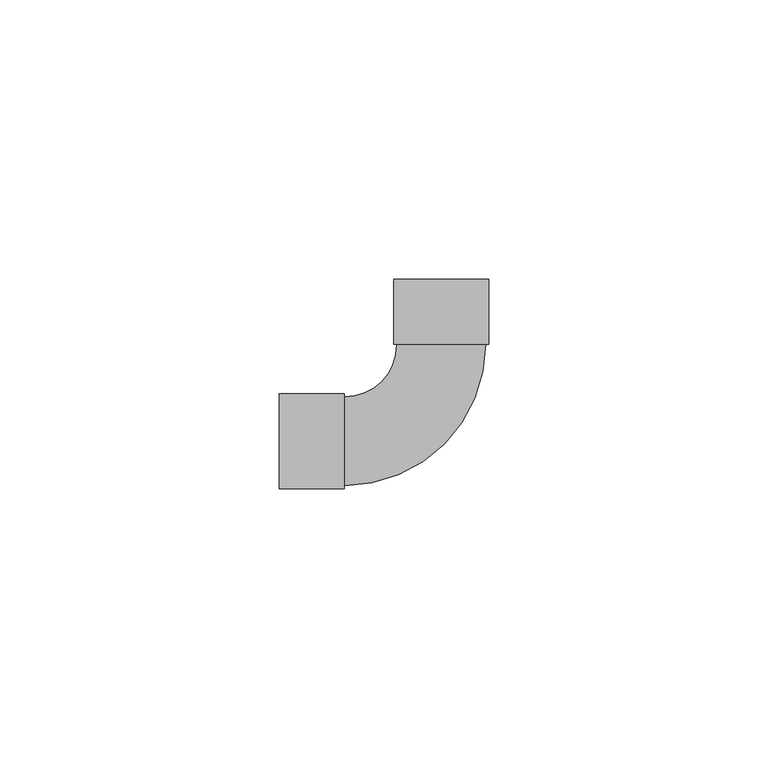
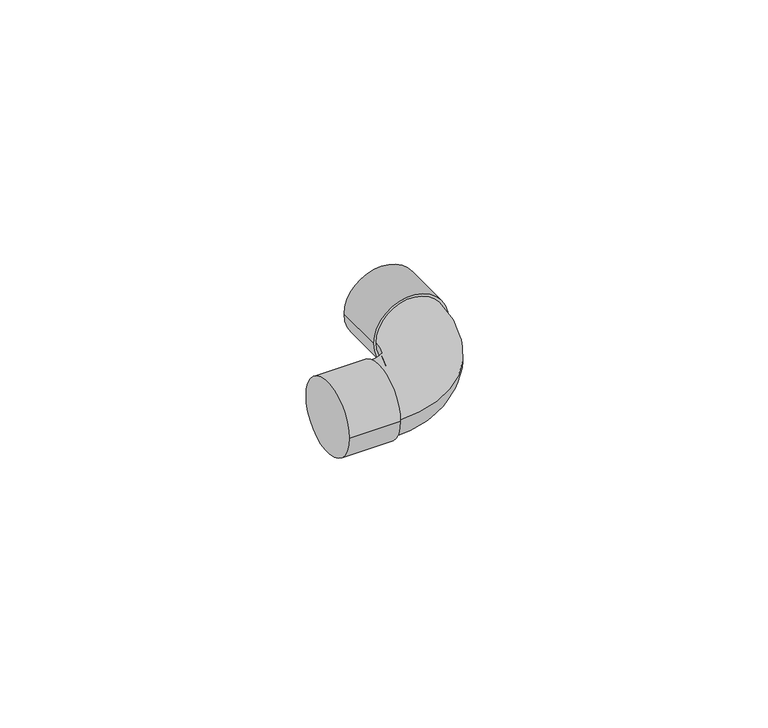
"""IFC4 building model written with IfcOpenShell, lengths in millimetres: pipe fitting geometry, Cotovelo - Soldado - CU : Padrão."""

from ifc_helpers import new_model, si_unit, point, frame, origin, place, context, project, spatial, circle_curve, ellipse_curve, trimmed, source, transform, mapped, element, save
from ifc_brep_helpers import plane_surface, cylinder_surface, revolved_surface, advanced_brep


def pipe_fitting_16c020f5(model_context):
    return source(origin(), model_context, "Body", "AdvancedBrep", [
        advanced_brep(
        [(-7.935, 17.3197, 0.0), (-17.3197, 7.935, 0.0), (-17.3197, -7.935, 0.0), (7.935, 17.3197, 0.0), (-28.9786, -8.4937, 0.0), (-28.9786, 8.4937, 0.0), (-17.3197, -8.4937, 0.0), (-17.3197, 8.4937, 0.0), (-8.4937, 28.9786, 0.0), (8.4937, 28.9786, 0.0), (-8.4937, 17.3197, 0.0), (8.4937, 17.3197, 0.0)],
        [
            (0, 1, circle_curve(frame((-17.3197, 17.3197, 0.0), z_axis=(0.0, 0.0, -1.0), x_axis=(0.0, -1.0, 0.0)), 9.3847)),
            (1, 2, circle_curve(frame((-17.3197, 0.0, 0.0), z_axis=(1.0, 0.0, 0.0), x_axis=(0.0, 1.0, 0.0)), 7.935)),
            (2, 3, circle_curve(frame((-17.3197, 17.3197, 0.0), z_axis=(0.0, 0.0, 1.0), x_axis=(0.0, -1.0, 0.0)), 25.2547)),
            (3, 0, circle_curve(frame((0.0, 17.3197, 0.0), z_axis=(0.0, -1.0, 0.0), x_axis=(-1.0, 0.0, 0.0)), 7.935)),
            (0, 3, circle_curve(frame((0.0, 17.3197, 0.0), z_axis=(0.0, -1.0, 0.0), x_axis=(-1.0, 0.0, 0.0)), 7.935)),
            (2, 1, circle_curve(frame((-17.3197, 0.0, 0.0), z_axis=(1.0, 0.0, 0.0), x_axis=(0.0, 1.0, 0.0)), 7.935)),
            (4, 5, circle_curve(frame((-28.9786, 0.0, 0.0), z_axis=(-1.0, 0.0, 0.0), x_axis=(0.0, 1.0, 0.0)), 8.4937)),
            (5, 4, circle_curve(frame((-28.9786, 0.0, 0.0), z_axis=(-1.0, 0.0, 0.0), x_axis=(0.0, 1.0, 0.0)), 8.4937)),
            (6, 7, circle_curve(frame((-17.3197, 0.0, 0.0), z_axis=(1.0, 0.0, 0.0), x_axis=(0.0, 1.0, 0.0)), 8.4937)),
            (7, 6, circle_curve(frame((-17.3197, 0.0, 0.0), z_axis=(1.0, 0.0, 0.0), x_axis=(0.0, 1.0, 0.0)), 8.4937)),
            (4, 6),
            (7, 5),
            (8, 9, circle_curve(frame((0.0, 28.9786, 0.0), z_axis=(0.0, 1.0, 0.0), x_axis=(1.0, 0.0, 0.0)), 8.4937)),
            (9, 8, circle_curve(frame((0.0, 28.9786, 0.0), z_axis=(0.0, 1.0, 0.0), x_axis=(1.0, 0.0, 0.0)), 8.4937)),
            (10, 11, circle_curve(frame((0.0, 17.3197, 0.0), z_axis=(0.0, -1.0, 0.0), x_axis=(1.0, 0.0, 0.0)), 8.4937)),
            (11, 10, circle_curve(frame((0.0, 17.3197, 0.0), z_axis=(0.0, -1.0, 0.0), x_axis=(1.0, 0.0, 0.0)), 8.4937)),
            (8, 10),
            (11, 9),
        ],
        [
            revolved_surface(trimmed(ellipse_curve(frame((-17.3197, 0.0, 0.0), z_axis=(-1.0, 0.0, 0.0), x_axis=(0.0, 1.0, 0.0)), 7.935, 7.935), [point((-17.3197, -7.935, 0.0))], [point((-17.3197, 7.935, 0.0))], True, "CARTESIAN"), (-17.3197, 17.3197, 0.0), (0.0, 0.0, 1.0)),
            revolved_surface(trimmed(ellipse_curve(frame((-17.3197, 0.0, 0.0), z_axis=(-1.0, 0.0, 0.0), x_axis=(0.0, 1.0, 0.0)), 7.935, 7.935), [point((-17.3197, 7.935, 0.0))], [point((-17.3197, -7.935, 0.0))], True, "CARTESIAN"), (-17.3197, 17.3197, 0.0), (0.0, 0.0, 1.0)),
            plane_surface(frame((-28.9786, 0.0, 0.0), z_axis=(-1.0, 0.0, 0.0), x_axis=(0.0, 0.0, 1.0))),
            plane_surface(frame((-17.3197, 0.0, 0.0), z_axis=(1.0, 0.0, 0.0), x_axis=(0.0, 0.0, 1.0))),
            cylinder_surface(frame((-28.9786, 0.0, 0.0), z_axis=(-1.0, 0.0, 0.0), x_axis=(0.0, 1.0, 0.0)), 8.4937),
            plane_surface(frame((0.0, 28.9786, 0.0), z_axis=(0.0, 1.0, 0.0), x_axis=(0.0, 0.0, 1.0))),
            plane_surface(frame((0.0, 17.3197, 0.0), z_axis=(0.0, -1.0, 0.0), x_axis=(0.0, 0.0, 1.0))),
            cylinder_surface(frame((0.0, 28.9786, 0.0), z_axis=(0.0, 1.0, 0.0), x_axis=(1.0, 0.0, 0.0)), 8.4937),
        ],
        [
            (0, [[1, 2, 3, 4]]),
            (1, [[-1, 5, -3, 6]]),
            (2, [[7, 8]]),
            (3, [[9, 10], [-2, -6]]),
            (4, [[-7, 11, -10, 12]]),
            (4, [[-8, -12, -9, -11]]),
            (5, [[13, 14]]),
            (6, [[15, 16], [-4, -5]]),
            (7, [[-13, 17, -16, 18]]),
            (7, [[-14, -18, -15, -17]]),
        ],
    ),
    ])


if __name__ == "__main__":
    model = new_model("IFC4")
    model_context = context("Model", 3, world=origin())
    ifc_project = project(units=[si_unit("LENGTHUNIT", "METRE", prefix="MILLI")], contexts=[model_context])
    site = spatial("IfcSite", under=ifc_project)
    building = spatial("IfcBuilding", under=site)
    placement = place(None, origin())
    pipe_fitting_shape = pipe_fitting_16c020f5(model_context)
    element("IfcPipeFitting", 1, ObjectType="Cotovelo - Soldado - CU : Padrão", at=placement, inside=building, context=model_context, shape_type="MappedRepresentation", body=[
        mapped(pipe_fitting_shape, transform((0.0, 0.0, 0.0), x_axis=(1.0, 0.0, 0.0), y_axis=(0.0, 1.0, 0.0), z_axis=(0.0, 0.0, 1.0))),
    ])
    save(model, "model.ifc")
